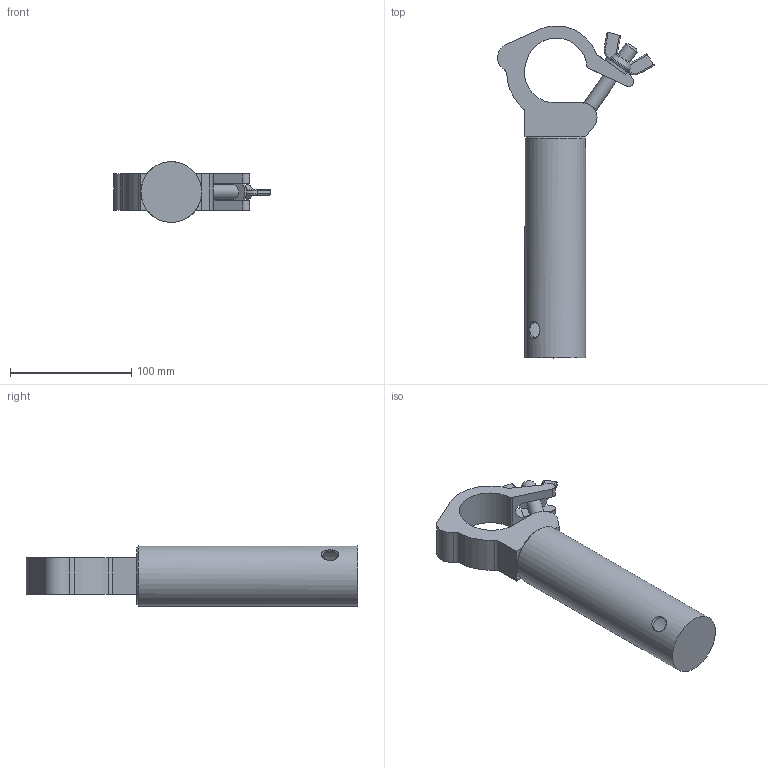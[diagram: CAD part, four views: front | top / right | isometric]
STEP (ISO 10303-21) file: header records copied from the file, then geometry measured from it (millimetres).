
FILE_DESCRIPTION(/* description */ (''),/* implementation_level */ '2;1');
FILE_NAME(/* name */ 'K:\Techniek\CAD Tekeningen\Inventor transport\Cas\Cad Blokken\Catalogus\CS1-DCxx\CS1-DC21S.stp',/* time_stamp */ '2021-08-02T11:07:34+02:00',/* author */ ('Cas'),/* organization */ (''),/* preprocessor_version */ 'ST-DEVELOPER v18',/* originating_system */ 'Autodesk Inventor 2020',/* authorisation */ '');
FILE_SCHEMA (('AUTOMOTIVE_DESIGN { 1 0 10303 214 3 1 1 }'));
Length unit declared in the file: millimetre
Products named in the file (1): CS1-DC21S
Bounding box: 129.05 x 273.33 x 49.92 mm (x, y, z)
Volume: 469075.7 mm3; surface area: 57040.4 mm2
Topology: 1 solids, 1 shells, 81 faces, 225 edges, 145 vertices
Faces by surface type: plane 37, cylinder 28, torus 8, cone 8
Full cylindrical faces by diameter (mm): 12 x2, 50 x1
Entity records: 2997 total; most frequent: CARTESIAN_POINT 732, ORIENTED_EDGE 458, DIRECTION 438, EDGE_CURVE 229, AXIS2_PLACEMENT_3D 165, VERTEX_POINT 145, LINE 108, VECTOR 108
